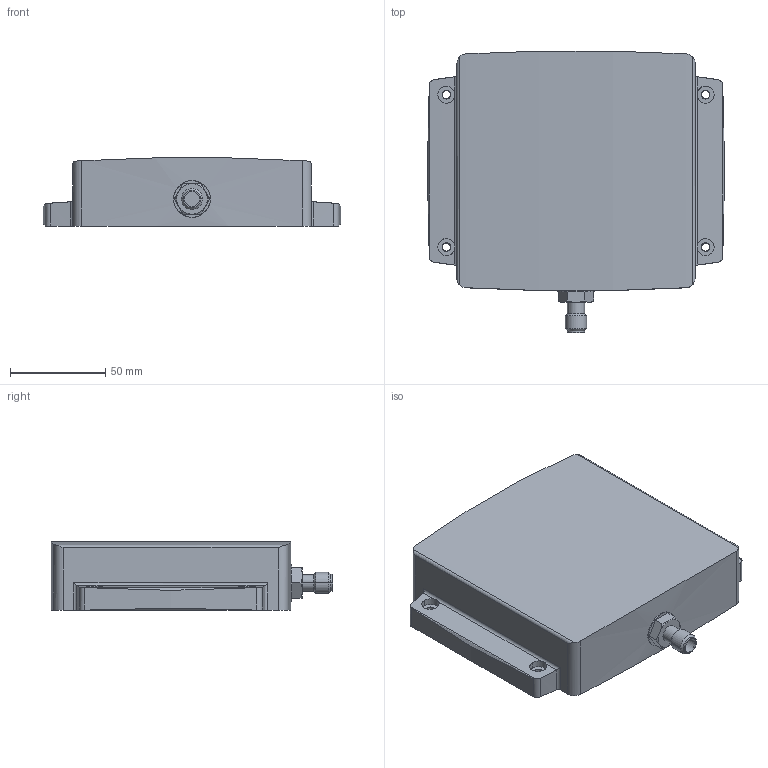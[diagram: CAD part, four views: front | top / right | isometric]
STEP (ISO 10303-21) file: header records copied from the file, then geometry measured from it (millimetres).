
FILE_DESCRIPTION( ( '' ), '1' );
FILE_NAME( '//expscmdclustefs.cadenas.external/client_exchange/iodir/jobs/output/wkb51954739_no0/STEP/ANT820_2_03.stp', '2012-12-04T15:03:05', ( '' ), ( '' ), ' ', ' ', ' ' );
FILE_SCHEMA( ( 'CONFIG_CONTROL_DESIGN' ) );
Length unit declared in the file: millimetre
Products named in the file (1): 1
Bounding box: 156 x 147.81 x 35.79 mm (x, y, z)
Volume: 587156 mm3; surface area: 55690.4 mm2
Topology: 1 solids, 1 shells, 110 faces, 276 edges, 172 vertices
Faces by surface type: cylinder 65, cone 28, plane 17
Entity records: 4330 total; most frequent: CARTESIAN_POINT 1697, ORIENTED_EDGE 552, DIRECTION 534, EDGE_CURVE 276, AXIS2_PLACEMENT_3D 211, VERTEX_POINT 172, EDGE_LOOP 122, LINE 112
